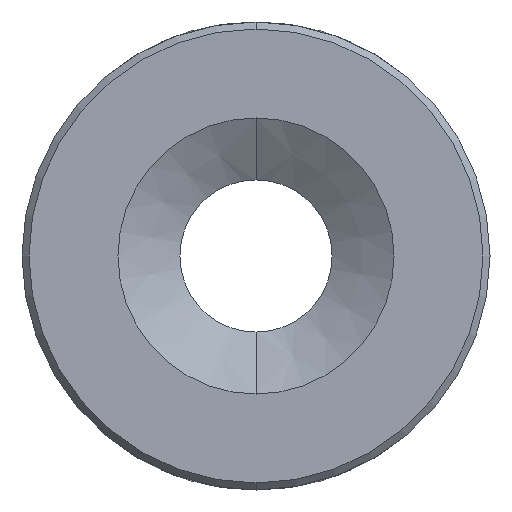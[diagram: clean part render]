
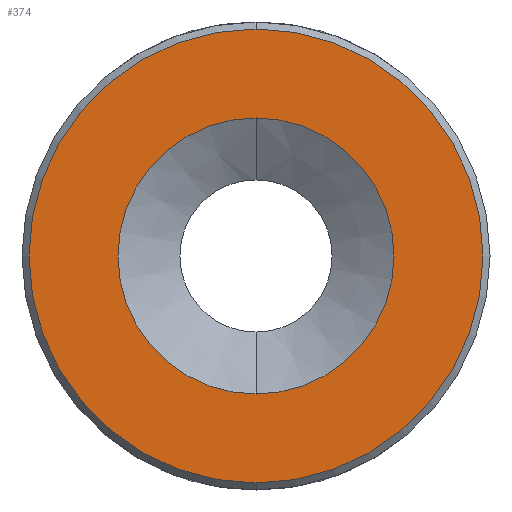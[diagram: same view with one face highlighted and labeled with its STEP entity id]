
A CAD part, front view. The second image highlights one B-rep face of the part: STEP entity #374.
In plain terms, the highlighted planar face has unit normal (0, -1, 0).
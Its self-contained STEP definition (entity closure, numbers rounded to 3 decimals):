
#35 = CIRCLE ( 'NONE', #508, 9.7 ) ;
#219 = EDGE_CURVE ( 'NONE', #356, #2042, #2261, .T. ) ;
#226 = CARTESIAN_POINT ( 'NONE',  ( 0., 0., 0. ) ) ;
#283 = DIRECTION ( 'NONE',  ( 0., -1., 0. ) ) ;
#356 = VERTEX_POINT ( 'NONE', #1477 ) ;
#374 = ADVANCED_FACE ( 'NONE', ( #838, #1938 ), #1823, .F. ) ;
#508 = AXIS2_PLACEMENT_3D ( 'NONE', #1474, #962, #1114 ) ;
#517 = VERTEX_POINT ( 'NONE', #1586 ) ;
#532 = ORIENTED_EDGE ( 'NONE', *, *, #1871, .F. ) ;
#838 = FACE_OUTER_BOUND ( 'NONE', #950, .T. ) ;
#917 = ORIENTED_EDGE ( 'NONE', *, *, #219, .T. ) ;
#950 = EDGE_LOOP ( 'NONE', ( #1206, #917 ) ) ;
#962 = DIRECTION ( 'NONE',  ( 0., -1., 0. ) ) ;
#1084 = CARTESIAN_POINT ( 'NONE',  ( 0., 0., 9.7 ) ) ;
#1114 = DIRECTION ( 'NONE',  ( 0., 0., 1. ) ) ;
#1128 = VERTEX_POINT ( 'NONE', #2201 ) ;
#1129 = DIRECTION ( 'NONE',  ( 0., 1., 0. ) ) ;
#1133 = AXIS2_PLACEMENT_3D ( 'NONE', #2286, #1843, #1951 ) ;
#1179 = DIRECTION ( 'NONE',  ( 0., 0., 1. ) ) ;
#1206 = ORIENTED_EDGE ( 'NONE', *, *, #2285, .T. ) ;
#1295 = CARTESIAN_POINT ( 'NONE',  ( 0., 0., 0. ) ) ;
#1454 = DIRECTION ( 'NONE',  ( 0., 0., 1. ) ) ;
#1474 = CARTESIAN_POINT ( 'NONE',  ( 0., 0., 0. ) ) ;
#1475 = CIRCLE ( 'NONE', #1133, 5.9 ) ;
#1477 = CARTESIAN_POINT ( 'NONE',  ( 0., 0., -9.7 ) ) ;
#1562 = AXIS2_PLACEMENT_3D ( 'NONE', #226, #1129, #1454 ) ;
#1586 = CARTESIAN_POINT ( 'NONE',  ( 0., 0., 5.9 ) ) ;
#1768 = AXIS2_PLACEMENT_3D ( 'NONE', #2038, #283, #1179 ) ;
#1822 = DIRECTION ( 'NONE',  ( 0., -1., 0. ) ) ;
#1823 = PLANE ( 'NONE',  #1562 ) ;
#1843 = DIRECTION ( 'NONE',  ( 0., -1., 0. ) ) ;
#1855 = AXIS2_PLACEMENT_3D ( 'NONE', #1295, #1822, #1992 ) ;
#1871 = EDGE_CURVE ( 'NONE', #517, #1128, #1475, .T. ) ;
#1915 = CIRCLE ( 'NONE', #1855, 5.9 ) ;
#1938 = FACE_BOUND ( 'NONE', #2025, .T. ) ;
#1951 = DIRECTION ( 'NONE',  ( 0., 0., -1. ) ) ;
#1992 = DIRECTION ( 'NONE',  ( 0., 0., -1. ) ) ;
#2025 = EDGE_LOOP ( 'NONE', ( #2226, #532 ) ) ;
#2038 = CARTESIAN_POINT ( 'NONE',  ( 0., 0., 0. ) ) ;
#2042 = VERTEX_POINT ( 'NONE', #1084 ) ;
#2201 = CARTESIAN_POINT ( 'NONE',  ( 0., 0., -5.9 ) ) ;
#2226 = ORIENTED_EDGE ( 'NONE', *, *, #2272, .F. ) ;
#2261 = CIRCLE ( 'NONE', #1768, 9.7 ) ;
#2272 = EDGE_CURVE ( 'NONE', #1128, #517, #1915, .T. ) ;
#2285 = EDGE_CURVE ( 'NONE', #2042, #356, #35, .T. ) ;
#2286 = CARTESIAN_POINT ( 'NONE',  ( 0., 0., 0. ) ) ;
